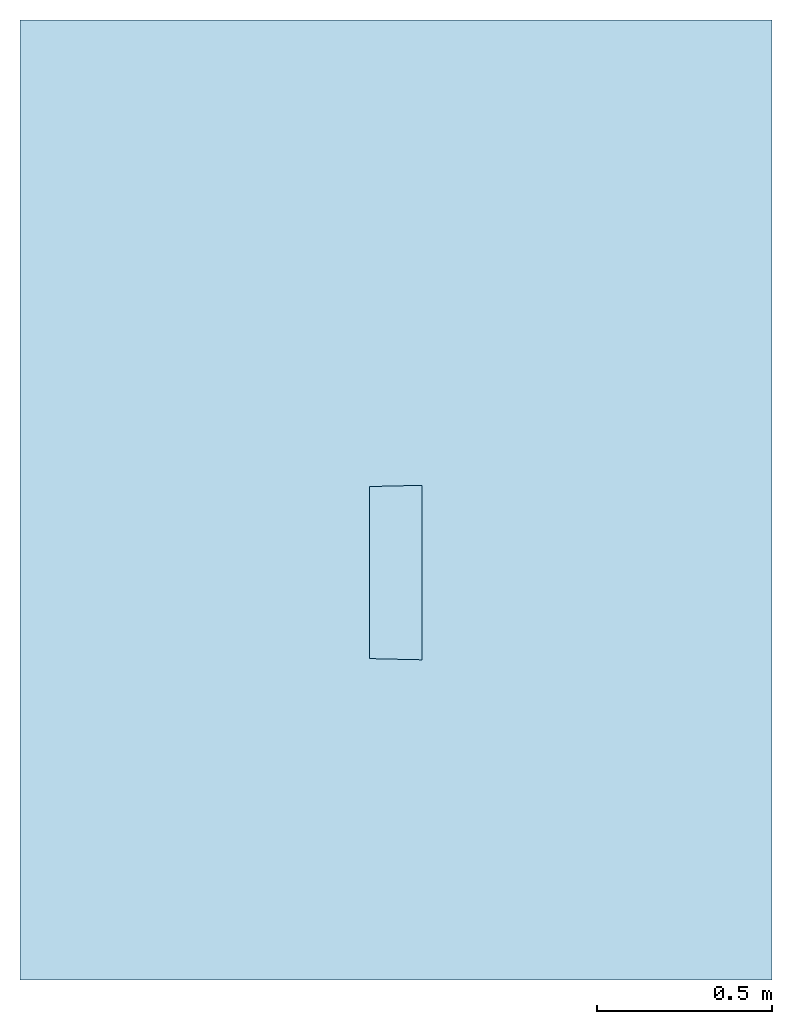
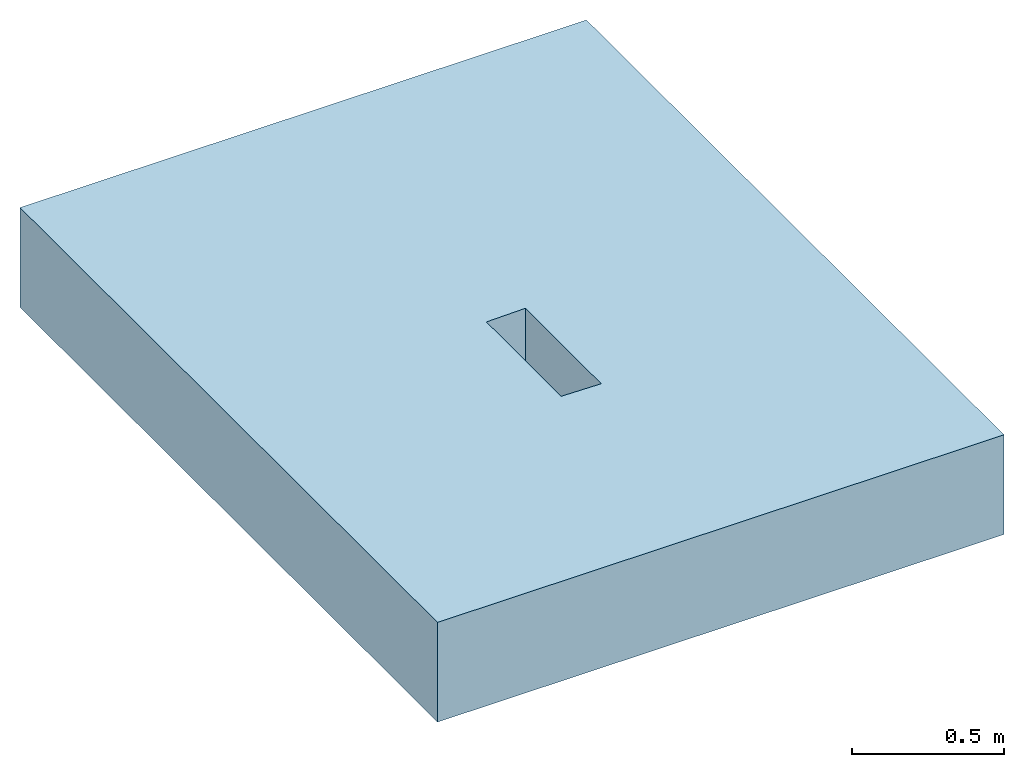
# One storey: 1 slab, 3 openings.
"""IFC2X3 building model written with IfcOpenShell, lengths in millimetres."""

import ifcopenshell
import ifcopenshell.guid

model = None  # the IFC model being written
_history = None  # IfcOwnerHistory: only IFC2X3 demands one
_inside = {}  # id of a spatial element -> (the spatial element, [elements in it])
_under = {}  # id of a project, library or spatial element -> (it, [spatial elements below it])
_declared = {}  # id of a project -> (the project, [libraries it declares])
_typed = {}  # id of a type object -> (the type object, [elements of that type])
_made_of = {}  # id of a material, layer set ... -> (it, [elements and type objects made of it])


def new_model(schema):
    """Start an empty IFC model of exactly this schema.

    Asked for "IFC4X3", IfcOpenShell would pick the latest addendum, in which some entities
    have other attributes; the version numbers below select the first issue.
    IFC2X3 requires an IfcOwnerHistory on every rooted entity: one is made here for all.
    """
    global model, _history
    if schema == "IFC4X3":
        model = ifcopenshell.file(schema_version=(4, 3, 0, 0))
    else:
        model = ifcopenshell.file(schema=schema)
    _inside.clear()
    _under.clear()
    _declared.clear()
    _typed.clear()
    _made_of.clear()
    _history = None
    if model.schema == "IFC2X3":
        org = make("IfcOrganization", Name="unknown")
        user = make(
            "IfcPersonAndOrganization",
            ThePerson=make("IfcPerson", FamilyName="unknown"),
            TheOrganization=org,
        )
        app = make(
            "IfcApplication",
            ApplicationDeveloper=org,
            Version="unknown",
            ApplicationFullName="unknown",
            ApplicationIdentifier="unknown",
        )
        _history = make(
            "IfcOwnerHistory",
            OwningUser=user,
            OwningApplication=app,
            ChangeAction="ADDED",
            CreationDate=0,
        )
    return model


def make(cls, **values):
    """One entity of the class cls with the attributes given. An attribute that is None is left unset."""
    return model.create_entity(
        cls, **{name: value for name, value in values.items() if value is not None}
    )


def entity(cls, *values):
    """Any entity or typed value of the class cls, its attributes in the order of the schema. None: left unset."""
    e = model.create_entity(cls)
    for i, value in enumerate(values):
        if value is not None:
            e[i] = value
    return e


def rooted(cls, **values):
    """An entity with a GlobalId (a new one), such as an element, a storey or a relation."""
    return make(cls, GlobalId=ifcopenshell.guid.new(), OwnerHistory=_history, **values)


def si_unit(unit_type, name, prefix=None):
    """IfcSIUnit, for example si_unit("LENGTHUNIT", "METRE", prefix="MILLI")."""
    return make("IfcSIUnit", UnitType=unit_type, Prefix=prefix, Name=name)


def converted_unit(unit_type, name, factor, base, dimensions=None, offset=None):
    """IfcConversionBasedUnit, such as the inch: factor (a typed value) times the base unit."""
    return make(
        "IfcConversionBasedUnit"
        if offset is None
        else "IfcConversionBasedUnitWithOffset",
        ConversionOffset=offset,
        Dimensions=None
        if dimensions is None
        else entity("IfcDimensionalExponents", *dimensions),
        UnitType=unit_type,
        Name=name,
        ConversionFactor=make(
            "IfcMeasureWithUnit", ValueComponent=factor, UnitComponent=base
        ),
    )


def assignment(units):
    """IfcUnitAssignment: the units of a project."""
    return None if units is None else make("IfcUnitAssignment", Units=units)


def point(xyz):
    """IfcCartesianPoint."""
    return None if xyz is None else make("IfcCartesianPoint", Coordinates=xyz)


def direction(xyz):
    """IfcDirection."""
    return None if xyz is None else make("IfcDirection", DirectionRatios=xyz)


def frame(location, z_axis=None, x_axis=None):
    """IfcAxis2Placement3D, a coordinate frame: its origin and axes. An axis left out is left unset."""
    return make(
        "IfcAxis2Placement3D",
        Location=point(location),
        Axis=direction(z_axis),
        RefDirection=direction(x_axis),
    )


def frame_2d(location, x_axis=None):
    """IfcAxis2Placement2D, a coordinate frame in the plane: its origin and x axis."""
    return make(
        "IfcAxis2Placement2D", Location=point(location), RefDirection=direction(x_axis)
    )


def origin():
    """The frame at (0, 0, 0) with its axes left unset."""
    return frame((0.0, 0.0, 0.0))


def origin_2d_with_axis():
    """The frame at (0, 0) in the plane with the x axis (1, 0) written out."""
    return frame_2d((0.0, 0.0), x_axis=(1.0, 0.0))


def place(relative_to, where):
    """IfcLocalPlacement: puts the frame where relative to a parent placement (None: the world)."""
    return make(
        "IfcLocalPlacement", PlacementRelTo=relative_to, RelativePlacement=where
    )


def context(
    kind, dimensions, precision=None, world=None, true_north=None, identifier=None
):
    """IfcGeometricRepresentationContext, for example the 3D "Model" context."""
    return make(
        "IfcGeometricRepresentationContext",
        ContextIdentifier=identifier,
        ContextType=kind,
        CoordinateSpaceDimension=dimensions,
        Precision=precision,
        WorldCoordinateSystem=world,
        TrueNorth=true_north,
    )


def subcontext(parent, identifier, kind, view, scale=None):
    """IfcGeometricRepresentationSubContext, for example "Body" below "Model"."""
    return make(
        "IfcGeometricRepresentationSubContext",
        ContextIdentifier=identifier,
        ContextType=kind,
        ParentContext=parent,
        TargetScale=scale,
        TargetView=view,
    )


def project(units=None, contexts=None):
    """IfcProject with its units and contexts."""
    return rooted(
        "IfcProject",
        Name="project",
        RepresentationContexts=contexts,
        UnitsInContext=assignment(units),
    )


def spatial(cls, under=None, at=None, **own):
    """A site, building, storey or space (cls), placed at a placement, below another one or the project."""
    s = rooted(cls, ObjectPlacement=at, **own)
    if under is not None:
        _under.setdefault(under.id(), (under, []))[1].append(s)
    return s


def polyline(points):
    """IfcPolyline through the points."""
    return make("IfcPolyline", Points=[point(p) for p in points])


def profile(cls, at=None, kind="AREA", **sizes):
    """A parametric profile (cls). Its sizes go by their IFC names, for example OverallWidth=200.0."""
    return make(cls, ProfileType=kind, Position=at, **sizes)


def rectangle(**sizes):
    """IfcRectangleProfileDef."""
    return profile("IfcRectangleProfileDef", **sizes)


def outline(outer, holes=None, kind="AREA"):
    """IfcArbitraryClosedProfileDef: a profile drawn as a closed curve; with holes, ...WithVoids."""
    if holes is None:
        return make("IfcArbitraryClosedProfileDef", ProfileType=kind, OuterCurve=outer)
    return make(
        "IfcArbitraryProfileDefWithVoids",
        ProfileType=kind,
        OuterCurve=outer,
        InnerCurves=holes,
    )


def extrude(swept, where, along, depth):
    """IfcExtrudedAreaSolid: the profile swept, set in the frame where, extruded along a direction by depth."""
    return make(
        "IfcExtrudedAreaSolid",
        SweptArea=swept,
        Position=where,
        ExtrudedDirection=direction(along),
        Depth=depth,
    )


def shape(context_of_items, identifier, shape_type, items):
    """IfcShapeRepresentation: the items that make up one representation, for example the "Body"."""
    return make(
        "IfcShapeRepresentation",
        ContextOfItems=context_of_items,
        RepresentationIdentifier=identifier,
        RepresentationType=shape_type,
        Items=items,
    )


def material(Name=None, Category=None):
    """IfcMaterial."""
    return make("IfcMaterial", Name=Name, Category=Category)


def layer(
    of_material, thickness, ventilated=None, Name=None, Category=None, Priority=None
):
    """IfcMaterialLayer: one layer of a wall or slab, of a material (None: an air gap)."""
    return make(
        "IfcMaterialLayer",
        Material=of_material,
        LayerThickness=thickness,
        IsVentilated=ventilated,
        Name=Name,
        Category=Category,
        Priority=Priority,
    )


def layer_set(layers, Name=None):
    """IfcMaterialLayerSet."""
    return make("IfcMaterialLayerSet", MaterialLayers=layers, LayerSetName=Name)


def layer_usage(for_layer_set, set_direction, sense, offset, extent=None):
    """IfcMaterialLayerSetUsage: how a layer set lies in its element."""
    return make(
        "IfcMaterialLayerSetUsage",
        ForLayerSet=for_layer_set,
        LayerSetDirection=set_direction,
        DirectionSense=sense,
        OffsetFromReferenceLine=offset,
        ReferenceExtent=extent,
    )


def made_of(thing, what):
    """Note that an element or type object is made of a material, layer set ...; save() writes the relation."""
    if what is not None:
        _made_of.setdefault(what.id(), (what, []))[1].append(thing)
    return thing


def element(
    cls,
    number,
    at=None,
    inside=None,
    cuts=None,
    type_object=None,
    material=None,
    context=None,
    identifier="Body",
    shape_type=None,
    held_by="IfcProductDefinitionShape",
    body=None,
    shapes=None,
    **own,
):
    """One element of the class cls, such as IfcWall. Its Tag is "e" and its number.

    at: its placement. inside: the storey or other place that contains it. cuts: it is an
    opening in that element (IfcRelVoidsElement). A single representation is given by context,
    identifier, shape_type and body (its items); several are given by shapes. held_by: the class
    of the entity that holds the representations. save() writes the other relations.
    """
    e = rooted(cls, Tag="e%d" % number, ObjectPlacement=at, **own)
    if body is not None:
        shapes = [shape(context, identifier, shape_type, body)]
    if shapes is not None:
        e.Representation = make(held_by, Representations=shapes)
    if inside is not None:
        _inside.setdefault(inside.id(), (inside, []))[1].append(e)
    if cuts is not None:
        rooted(
            "IfcRelVoidsElement", RelatingBuildingElement=cuts, RelatedOpeningElement=e
        )
    if type_object is not None:
        _typed.setdefault(type_object.id(), (type_object, []))[1].append(e)
    return made_of(e, material)


def aggregate(whole, parts):
    """IfcRelAggregates: a whole, such as a stair, and the parts it consists of."""
    return rooted("IfcRelAggregates", RelatingObject=whole, RelatedObjects=parts)


def save(model, path):
    """Write the relations noted so far, then the file.

    IfcRelAggregates (storeys below a building ...), IfcRelContainedInSpatialStructure (elements
    in a storey), IfcRelDefinesByType, IfcRelAssociatesMaterial and IfcRelDeclares: one each for
    every whole, place, type object, material and project.
    """
    for whole, parts in _under.values():
        aggregate(whole, parts)
    for where, things in _inside.values():
        rooted(
            "IfcRelContainedInSpatialStructure",
            RelatedElements=things,
            RelatingStructure=where,
        )
    for kind, things in _typed.values():
        rooted("IfcRelDefinesByType", RelatedObjects=things, RelatingType=kind)
    for what, things in _made_of.values():
        rooted("IfcRelAssociatesMaterial", RelatedObjects=things, RelatingMaterial=what)
    for by, libraries in _declared.values():
        rooted("IfcRelDeclares", RelatingContext=by, RelatedDefinitions=libraries)
    model.write(path)


model = new_model("IFC2X3")

# Units and contexts
model_context = context("Model", 3, precision=1e-06, world=origin(), true_north=direction((2.0, 6.12303176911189e-17, 1.0)))
context_of_model = context(None, 3, precision=1e-06, world=origin(), true_north=direction((2.0, 6.12303176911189e-17, 1.0)))
body_context = subcontext(model_context, "Body", "Model", "MODEL_VIEW")
ifc_project = project(units=[si_unit("LENGTHUNIT", "METRE", prefix="MILLI"), si_unit("AREAUNIT", "SQUARE_METRE", prefix="MILLI"), si_unit("VOLUMEUNIT", "CUBIC_METRE", prefix="MILLI"), converted_unit("PLANEANGLEUNIT", "DEGREE", entity("IfcRatioMeasure", 0.0174532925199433), si_unit("PLANEANGLEUNIT", "RADIAN"), dimensions=[0, 0, 0, 0, 0, 0, 0]), si_unit("TIMEUNIT", "SECOND")], contexts=[model_context, context_of_model])

# Site, building, storey
site_placement = place(None, origin())
site = spatial("IfcSite", under=ifc_project, at=site_placement, Name="Default", CompositionType="ELEMENT")
building_placement = place(site_placement, origin())
building = spatial("IfcBuilding", under=site, at=building_placement, CompositionType="ELEMENT")
storey_placement = place(building_placement, origin())
storey = spatial("IfcBuildingStorey", under=building, at=storey_placement, Name="Level 1", CompositionType="ELEMENT", Elevation=0.0)

# Slab, openings
ifc_material = material(Name="Earth")
ifc_layer = layer(ifc_material, 400.0)
ifc_layer_set = layer_set([ifc_layer], Name="Floor:Generic Floor - 400mm")
ifc_layer_usage = layer_usage(ifc_layer_set, "AXIS3", "POSITIVE", 0.0)
slab_placement = place(storey_placement, frame((-6757.99544306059, -11162.1166238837, -400.0)))
slab = element("IfcSlab", 1, at=slab_placement, inside=storey, material=ifc_layer_usage, Name="Floor:Generic Floor - 400mm", ObjectType="Floor:Generic Floor - 400mm", PredefinedType="FLOOR", context=body_context, shape_type="SweptSolid", body=[
    extrude(rectangle(XDim=2745.0, YDim=2150.0, at=frame_2d((0.0, 0.0), x_axis=(0.0, 1.0))), frame((1075.0, 1372.5, 400.0), z_axis=(0.0, 0.0, -1.0), x_axis=(-1.0, 0.0, 0.0)), (0.0, 0.0, 1.0), 400.0),
])
opening_1_placement = place(slab_placement, origin())
element("IfcOpeningElement", 2, at=opening_1_placement, cuts=slab, ObjectType="Opening", context=body_context, shape_type="SweptSolid", body=[
    extrude(outline(polyline([(-133.518702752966, -87.7019530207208), (26.4562972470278, -87.7019530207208), (26.4562972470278, -70.7019530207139), (26.8490923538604, -70.7019530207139), (26.8490923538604, 29.6156241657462), (63.5617749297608, 59.2980469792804), (33.0157590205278, 59.2980469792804), (63.8490923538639, 84.2980469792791), (-133.518702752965, 84.2980469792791), (-133.518702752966, -87.7019530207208)])), frame((1000.0, 1024.29804697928, -1466.48129724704), z_axis=(1.0, 0.0, 0.0), x_axis=(0.0, 0.0, 1.0)), (0.0, 0.0, 1.0), 149.999999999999),
])
opening_2_placement = place(slab_placement, origin())
element("IfcOpeningElement", 3, at=opening_2_placement, cuts=slab, ObjectType="Opening", context=body_context, shape_type="SweptSolid", body=[
    extrude(outline(polyline([(-246.0, -75.0), (246.0, -75.0), (249.5, 75.0), (-249.500000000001, 75.0), (-246.0, -75.0)])), frame((1075.0, 1165.0, 45.0), z_axis=(0.0, 0.0, 1.0), x_axis=(0.0, -1.0, 0.0)), (0.0, 0.0, 1.0), 355.0),
])
opening_3_placement = place(slab_placement, origin())
element("IfcOpeningElement", 4, at=opening_3_placement, cuts=slab, ObjectType="Opening", context=body_context, shape_type="SweptSolid", body=[
    extrude(rectangle(XDim=149.999999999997, YDim=500.0, at=origin_2d_with_axis()), frame((1075.0, 1165.0, -6185.0), z_axis=(0.0, 0.0, 1.0), x_axis=(-1.0, 0.0, 0.0)), (0.0, 0.0, 1.0), 4.99999999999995),
])

save(model, "model.ifc")
